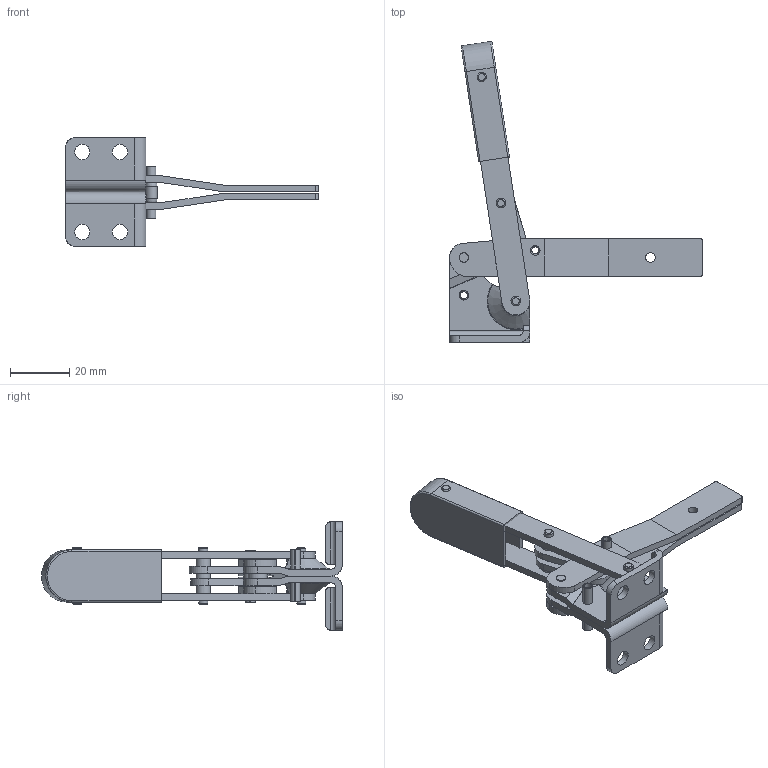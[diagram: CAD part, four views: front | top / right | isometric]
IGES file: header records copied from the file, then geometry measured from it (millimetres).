
Global section: file name: No Iges File Name specified; native system: AutoDesk Inventor R9; preprocessor: AutoDesk Inventor Iges Exporter R9; author: No Author specified; organization: No Organization specified; date: 20050607.185955; units: inch
Bounding box: 85.02 x 101.25 x 36.53 mm (x, y, z)
Surface area: 21322.2 mm2 (no closed solid volume)
Topology: 0 solids, 0 shells, 242 faces, 1085 edges, 1030 vertices
Faces by surface type: revolution 93, plane 87, bspline 62
